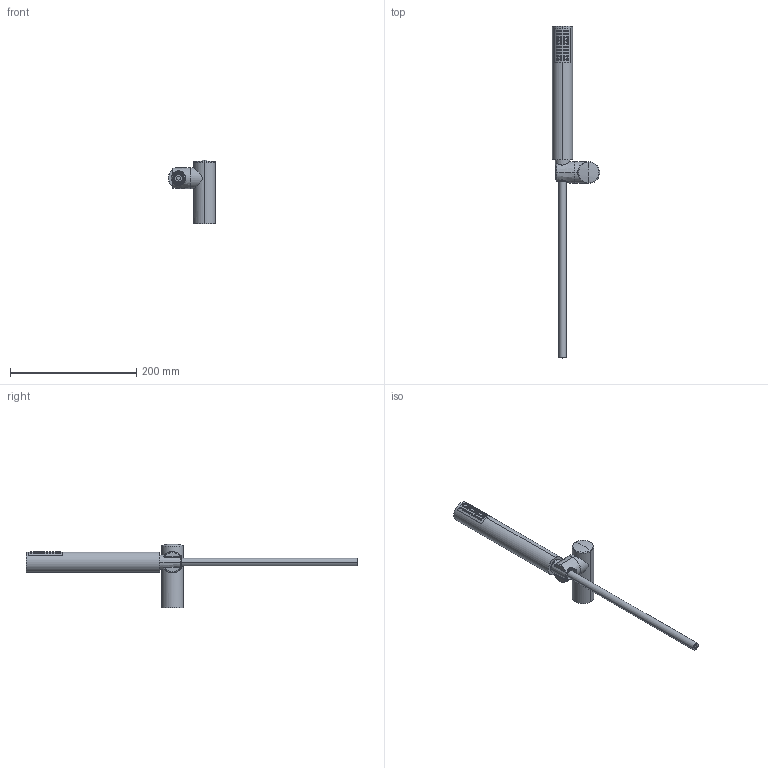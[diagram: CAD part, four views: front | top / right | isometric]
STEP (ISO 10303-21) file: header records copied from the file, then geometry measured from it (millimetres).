
FILE_DESCRIPTION((''),'2;1');
FILE_NAME('DOCCIA_FLUID','2015-09-28T',('ivanv'),(''),'PRO/ENGINEER BY PARAMETRIC TECHNOLOGY CORPORATION, 2012130','PRO/ENGINEER BY PARAMETRIC TECHNOLOGY CORPORATION, 2012130','');
FILE_SCHEMA(('CONFIG_CONTROL_DESIGN'));
Length unit declared in the file: millimetre
Products named in the file (1): DOCCIA_FLUID
Bounding box: 74.8 x 525.78 x 101 mm (x, y, z)
Volume: 315075.6 mm3; surface area: 62124.2 mm2
Topology: 2 solids, 3 shells, 359 faces, 731 edges, 467 vertices
Faces by surface type: cylinder 238, plane 83, torus 14, bspline 14, sphere 6, cone 4
Entity records: 13864 total; most frequent: CARTESIAN_POINT 6469, DIRECTION 1492, ORIENTED_EDGE 1458, EDGE_CURVE 729, AXIS2_PLACEMENT_3D 630, VERTEX_POINT 467, EDGE_LOOP 452, FACE_OUTER_BOUND 359
